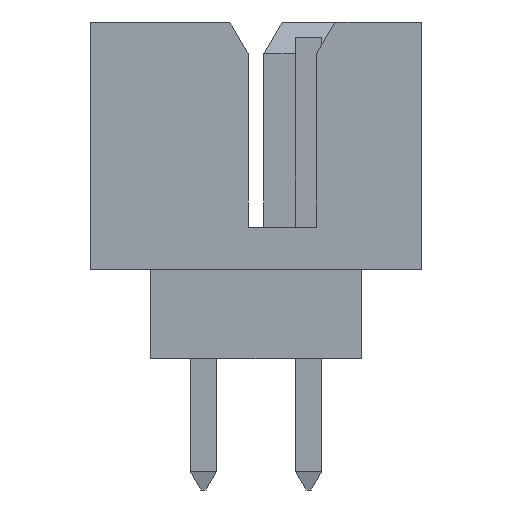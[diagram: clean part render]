
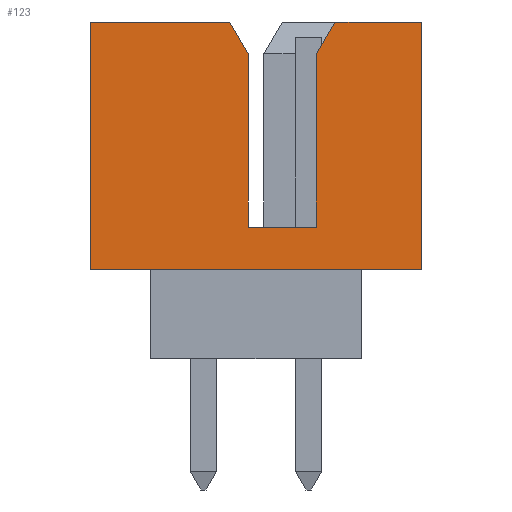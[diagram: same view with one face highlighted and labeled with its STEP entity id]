
A CAD part, left-side view. The second image highlights one B-rep face of the part: STEP entity #123.
In plain terms, the highlighted planar face has unit normal (-1, 0, 0).
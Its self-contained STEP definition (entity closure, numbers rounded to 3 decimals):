
#123=ADVANCED_FACE('',(#692),#408,.T.);
#408=PLANE('',#5302);
#692=FACE_OUTER_BOUND('',#1008,.T.);
#1008=EDGE_LOOP('',(#1666,#1667,#1668,#1669,#1670,#1671,#1672,#1673,#1674,
#1675));
#1666=ORIENTED_EDGE('',*,*,#3460,.F.);
#1667=ORIENTED_EDGE('',*,*,#3156,.T.);
#1668=ORIENTED_EDGE('',*,*,#3459,.F.);
#1669=ORIENTED_EDGE('',*,*,#3451,.F.);
#1670=ORIENTED_EDGE('',*,*,#3424,.T.);
#1671=ORIENTED_EDGE('',*,*,#3138,.T.);
#1672=ORIENTED_EDGE('',*,*,#3461,.F.);
#1673=ORIENTED_EDGE('',*,*,#3462,.F.);
#1674=ORIENTED_EDGE('',*,*,#3342,.F.);
#1675=ORIENTED_EDGE('',*,*,#3463,.F.);
#2686=VERTEX_POINT('',#6869);
#2687=VERTEX_POINT('',#6871);
#2697=VERTEX_POINT('',#6896);
#2702=VERTEX_POINT('',#6906);
#2851=VERTEX_POINT('',#7277);
#2852=VERTEX_POINT('',#7279);
#2923=VERTEX_POINT('',#7436);
#2945=VERTEX_POINT('',#7487);
#2951=VERTEX_POINT('',#7504);
#2952=VERTEX_POINT('',#7506);
#3138=EDGE_CURVE('',#2687,#2686,#3850,.T.);
#3156=EDGE_CURVE('',#2697,#2702,#3868,.T.);
#3342=EDGE_CURVE('',#2851,#2852,#4048,.T.);
#3424=EDGE_CURVE('',#2923,#2687,#4130,.T.);
#3451=EDGE_CURVE('',#2923,#2945,#4157,.T.);
#3459=EDGE_CURVE('',#2945,#2702,#4165,.T.);
#3460=EDGE_CURVE('',#2697,#2951,#4166,.T.);
#3461=EDGE_CURVE('',#2952,#2686,#4167,.T.);
#3462=EDGE_CURVE('',#2852,#2952,#4168,.T.);
#3463=EDGE_CURVE('',#2951,#2851,#4169,.T.);
#3850=LINE('',#6870,#4556);
#3868=LINE('',#6907,#4574);
#4048=LINE('',#7278,#4754);
#4130=LINE('',#7435,#4836);
#4157=LINE('',#7486,#4863);
#4165=LINE('',#7501,#4871);
#4166=LINE('',#7503,#4872);
#4167=LINE('',#7505,#4873);
#4168=LINE('',#7507,#4874);
#4169=LINE('',#7508,#4875);
#4556=VECTOR('',#5562,1.);
#4574=VECTOR('',#5586,1.);
#4754=VECTOR('',#5850,1.);
#4836=VECTOR('',#5940,1.);
#4863=VECTOR('',#5971,1.);
#4871=VECTOR('',#5981,1.);
#4872=VECTOR('',#5984,1.);
#4873=VECTOR('',#5985,1.);
#4874=VECTOR('',#5986,1.);
#4875=VECTOR('',#5987,1.);
#5302=AXIS2_PLACEMENT_3D('',#7509,#5988,#5989);
#5562=DIRECTION('',(0.,1.,0.));
#5586=DIRECTION('',(0.,1.,0.));
#5850=DIRECTION('',(0.,-1.,0.));
#5940=DIRECTION('',(0.,0.,1.));
#5971=DIRECTION('',(0.,1.,0.));
#5981=DIRECTION('',(0.,0.,1.));
#5984=DIRECTION('',(0.,-0.504,-0.864));
#5985=DIRECTION('',(0.,-0.504,0.864));
#5986=DIRECTION('',(0.,0.,1.));
#5987=DIRECTION('',(0.,0.,-1.));
#5988=DIRECTION('',(-1.,0.,0.));
#5989=DIRECTION('',(0.,0.,1.));
#6869=CARTESIAN_POINT('',(-8.325,-1.5,6.4));
#6870=CARTESIAN_POINT('',(-8.325,3.15,6.4));
#6871=CARTESIAN_POINT('',(-8.325,-3.15,6.4));
#6896=CARTESIAN_POINT('',(-8.325,0.5,6.4));
#6906=CARTESIAN_POINT('',(-8.325,3.15,6.4));
#6907=CARTESIAN_POINT('',(-8.325,3.15,6.4));
#7277=CARTESIAN_POINT('',(-8.325,0.15,2.5));
#7278=CARTESIAN_POINT('',(-8.325,3.15,2.5));
#7279=CARTESIAN_POINT('',(-8.325,-1.15,2.5));
#7435=CARTESIAN_POINT('',(-8.325,-3.15,6.4));
#7436=CARTESIAN_POINT('',(-8.325,-3.15,1.7));
#7486=CARTESIAN_POINT('',(-8.325,-3.15,1.7));
#7487=CARTESIAN_POINT('',(-8.325,3.15,1.7));
#7501=CARTESIAN_POINT('',(-8.325,3.15,6.4));
#7503=CARTESIAN_POINT('',(-8.325,1.173,7.553));
#7504=CARTESIAN_POINT('',(-8.325,0.15,5.8));
#7505=CARTESIAN_POINT('',(-8.325,-0.319,4.376));
#7506=CARTESIAN_POINT('',(-8.325,-1.15,5.8));
#7507=CARTESIAN_POINT('',(-8.325,-1.15,6.4));
#7508=CARTESIAN_POINT('',(-8.325,0.15,6.4));
#7509=CARTESIAN_POINT('',(-8.325,3.15,6.4));
